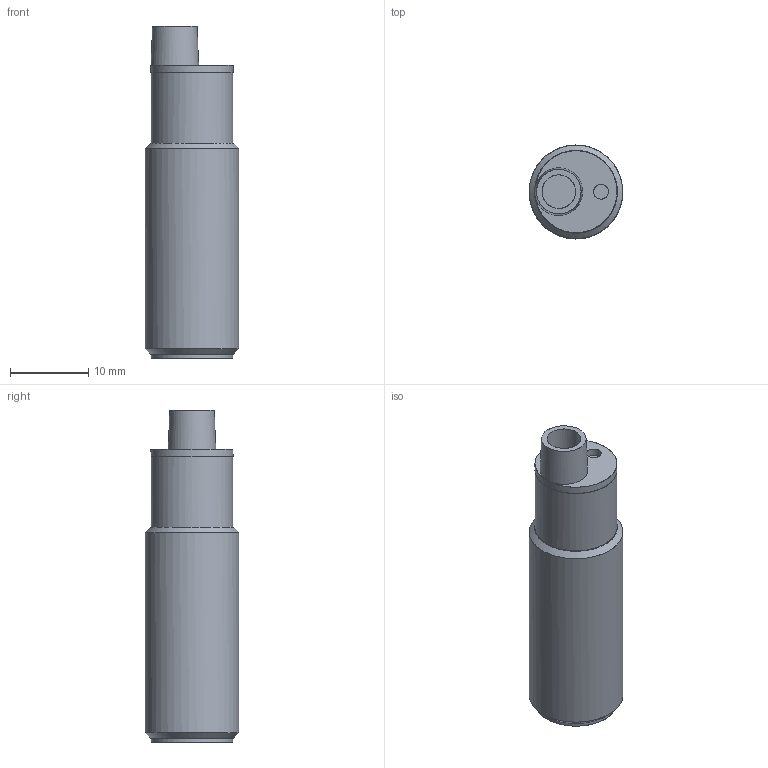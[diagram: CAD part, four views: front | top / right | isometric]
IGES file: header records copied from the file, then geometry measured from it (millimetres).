
Global section: file name: D:\CS\DSD-0275.igs; native system: NX V7.5; preprocessor: SIEMENS PLM Software NX 7.5; date: 20130509.102455; units: millimetre
Bounding box: 12 x 12 x 42.5 mm (x, y, z)
Surface area: 1737.3 mm2 (no closed solid volume)
Topology: 0 solids, 0 shells, 17 faces, 357 edges, 343 vertices
Faces by surface type: bspline 17
